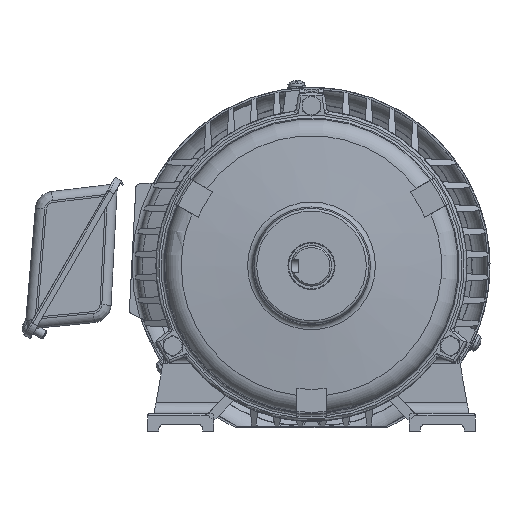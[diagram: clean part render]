
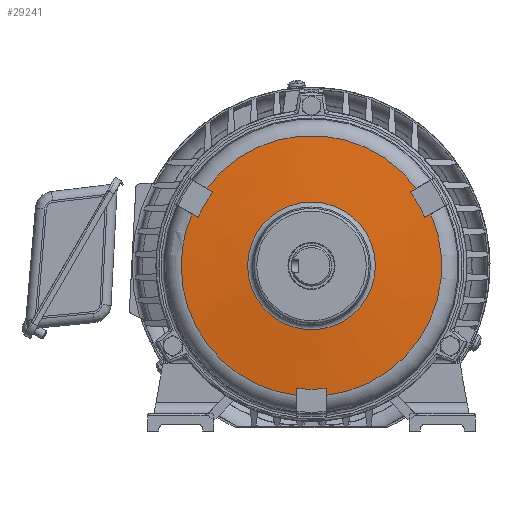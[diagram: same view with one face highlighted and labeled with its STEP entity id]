
A CAD part, front view. The second image highlights one B-rep face of the part: STEP entity #29241.
In plain terms, the highlighted conical face has half-angle 85.03 degrees and reference radius 78.5 mm.
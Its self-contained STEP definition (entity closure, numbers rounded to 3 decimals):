
#473=CONICAL_SURFACE('',#31248,78.5,1.484);
#1080=CIRCLE('',#31249,34.709);
#1081=CIRCLE('',#31250,70.777);
#1082=CIRCLE('',#31251,67.);
#1083=CIRCLE('',#31252,70.777);
#1084=CIRCLE('',#31253,67.);
#1085=CIRCLE('',#31254,70.777);
#1086=CIRCLE('',#31255,67.);
#2966=B_SPLINE_CURVE_WITH_KNOTS('',3,(#47145,#47146,#47147,#47148),
 .UNSPECIFIED.,.F.,.F.,(4,4),(0.,1.),.PIECEWISE_BEZIER_KNOTS.);
#2967=B_SPLINE_CURVE_WITH_KNOTS('',3,(#47153,#47154,#47155,#47156),
 .UNSPECIFIED.,.F.,.F.,(4,4),(0.,1.),.PIECEWISE_BEZIER_KNOTS.);
#2968=B_SPLINE_CURVE_WITH_KNOTS('',3,(#47160,#47161,#47162,#47163),
 .UNSPECIFIED.,.F.,.F.,(4,4),(0.,1.),.PIECEWISE_BEZIER_KNOTS.);
#2969=B_SPLINE_CURVE_WITH_KNOTS('',3,(#47167,#47168,#47169,#47170),
 .UNSPECIFIED.,.F.,.F.,(4,4),(0.,1.),.PIECEWISE_BEZIER_KNOTS.);
#2970=B_SPLINE_CURVE_WITH_KNOTS('',3,(#47174,#47175,#47176,#47177),
 .UNSPECIFIED.,.F.,.F.,(4,4),(0.,1.),.PIECEWISE_BEZIER_KNOTS.);
#2971=B_SPLINE_CURVE_WITH_KNOTS('',3,(#47181,#47182,#47183,#47184),
 .UNSPECIFIED.,.F.,.F.,(4,4),(0.,1.),.PIECEWISE_BEZIER_KNOTS.);
#5662=ORIENTED_EDGE('',*,*,#12124,.T.);
#5663=ORIENTED_EDGE('',*,*,#12125,.F.);
#5664=ORIENTED_EDGE('',*,*,#12126,.T.);
#5665=ORIENTED_EDGE('',*,*,#12127,.F.);
#5666=ORIENTED_EDGE('',*,*,#12128,.F.);
#5667=ORIENTED_EDGE('',*,*,#12129,.F.);
#5668=ORIENTED_EDGE('',*,*,#12130,.T.);
#5669=ORIENTED_EDGE('',*,*,#12131,.F.);
#5670=ORIENTED_EDGE('',*,*,#12132,.F.);
#5671=ORIENTED_EDGE('',*,*,#12133,.F.);
#5672=ORIENTED_EDGE('',*,*,#12134,.T.);
#5673=ORIENTED_EDGE('',*,*,#12135,.F.);
#5674=ORIENTED_EDGE('',*,*,#12136,.F.);
#12124=EDGE_CURVE('',#15556,#15556,#1080,.T.);
#12125=EDGE_CURVE('',#15557,#15558,#2966,.T.);
#12126=EDGE_CURVE('',#15557,#15559,#1081,.T.);
#12127=EDGE_CURVE('',#15560,#15559,#2967,.T.);
#12128=EDGE_CURVE('',#15561,#15560,#1082,.T.);
#12129=EDGE_CURVE('',#15562,#15561,#2968,.T.);
#12130=EDGE_CURVE('',#15562,#15563,#1083,.T.);
#12131=EDGE_CURVE('',#15564,#15563,#2969,.T.);
#12132=EDGE_CURVE('',#15565,#15564,#1084,.T.);
#12133=EDGE_CURVE('',#15566,#15565,#2970,.T.);
#12134=EDGE_CURVE('',#15566,#15567,#1085,.T.);
#12135=EDGE_CURVE('',#15568,#15567,#2971,.T.);
#12136=EDGE_CURVE('',#15558,#15568,#1086,.T.);
#15556=VERTEX_POINT('',#47144);
#15557=VERTEX_POINT('',#47149);
#15558=VERTEX_POINT('',#47150);
#15559=VERTEX_POINT('',#47152);
#15560=VERTEX_POINT('',#47157);
#15561=VERTEX_POINT('',#47159);
#15562=VERTEX_POINT('',#47164);
#15563=VERTEX_POINT('',#47166);
#15564=VERTEX_POINT('',#47171);
#15565=VERTEX_POINT('',#47173);
#15566=VERTEX_POINT('',#47178);
#15567=VERTEX_POINT('',#47180);
#15568=VERTEX_POINT('',#47185);
#20820=EDGE_LOOP('',(#5662));
#20821=EDGE_LOOP('',(#5663,#5664,#5665,#5666,#5667,#5668,#5669,#5670,#5671,
#5672,#5673,#5674));
#22682=FACE_BOUND('',#20820,.T.);
#22683=FACE_BOUND('',#20821,.T.);
#29241=ADVANCED_FACE('',(#22682,#22683),#473,.T.);
#31248=AXIS2_PLACEMENT_3D('',#47142,#35573,#35574);
#31249=AXIS2_PLACEMENT_3D('',#47143,#35575,#35576);
#31250=AXIS2_PLACEMENT_3D('',#47151,#35577,#35578);
#31251=AXIS2_PLACEMENT_3D('',#47158,#35579,#35580);
#31252=AXIS2_PLACEMENT_3D('',#47165,#35581,#35582);
#31253=AXIS2_PLACEMENT_3D('',#47172,#35583,#35584);
#31254=AXIS2_PLACEMENT_3D('',#47179,#35585,#35586);
#31255=AXIS2_PLACEMENT_3D('',#47186,#35587,#35588);
#35573=DIRECTION('',(0.,1.,0.));
#35574=DIRECTION('',(-1.,0.,0.));
#35575=DIRECTION('',(0.,1.,0.));
#35576=DIRECTION('',(-1.,0.,0.));
#35577=DIRECTION('',(0.,-1.,0.));
#35578=DIRECTION('',(1.,0.,0.));
#35579=DIRECTION('',(0.,1.,0.));
#35580=DIRECTION('',(-1.,0.,0.));
#35581=DIRECTION('',(0.,-1.,0.));
#35582=DIRECTION('',(1.,0.,0.));
#35583=DIRECTION('',(0.,1.,0.));
#35584=DIRECTION('',(-1.,0.,0.));
#35585=DIRECTION('',(0.,-1.,0.));
#35586=DIRECTION('',(1.,0.,0.));
#35587=DIRECTION('',(0.,1.,0.));
#35588=DIRECTION('',(-1.,0.,0.));
#47142=CARTESIAN_POINT('',(0.,11.,0.));
#47143=CARTESIAN_POINT('',(0.,7.192,0.));
#47144=CARTESIAN_POINT('',(-34.709,7.192,0.));
#47145=CARTESIAN_POINT('',(8.,10.328,-70.323));
#47146=CARTESIAN_POINT('',(8.,10.219,-69.056));
#47147=CARTESIAN_POINT('',(8.,10.109,-67.788));
#47148=CARTESIAN_POINT('',(8.,10.,-66.521));
#47149=CARTESIAN_POINT('',(8.,10.328,-70.323));
#47150=CARTESIAN_POINT('',(8.,10.,-66.521));
#47151=CARTESIAN_POINT('',(0.,10.328,0.));
#47152=CARTESIAN_POINT('',(64.902,10.328,28.233));
#47153=CARTESIAN_POINT('',(61.609,10.,26.332));
#47154=CARTESIAN_POINT('',(62.706,10.109,26.966));
#47155=CARTESIAN_POINT('',(63.804,10.219,27.6));
#47156=CARTESIAN_POINT('',(64.902,10.328,28.233));
#47157=CARTESIAN_POINT('',(61.609,10.,26.332));
#47158=CARTESIAN_POINT('',(0.,10.,0.));
#47159=CARTESIAN_POINT('',(53.609,10.,40.189));
#47160=CARTESIAN_POINT('',(56.902,10.328,42.09));
#47161=CARTESIAN_POINT('',(55.804,10.219,41.456));
#47162=CARTESIAN_POINT('',(54.706,10.109,40.822));
#47163=CARTESIAN_POINT('',(53.609,10.,40.189));
#47164=CARTESIAN_POINT('',(56.902,10.328,42.09));
#47165=CARTESIAN_POINT('',(0.,10.328,0.));
#47166=CARTESIAN_POINT('',(-56.902,10.328,42.09));
#47167=CARTESIAN_POINT('',(-53.609,10.,40.189));
#47168=CARTESIAN_POINT('',(-54.706,10.109,40.822));
#47169=CARTESIAN_POINT('',(-55.804,10.219,41.456));
#47170=CARTESIAN_POINT('',(-56.902,10.328,42.09));
#47171=CARTESIAN_POINT('',(-53.609,10.,40.189));
#47172=CARTESIAN_POINT('',(0.,10.,0.));
#47173=CARTESIAN_POINT('',(-61.609,10.,26.332));
#47174=CARTESIAN_POINT('',(-64.902,10.328,28.233));
#47175=CARTESIAN_POINT('',(-63.804,10.219,27.6));
#47176=CARTESIAN_POINT('',(-62.706,10.109,26.966));
#47177=CARTESIAN_POINT('',(-61.609,10.,26.332));
#47178=CARTESIAN_POINT('',(-64.902,10.328,28.233));
#47179=CARTESIAN_POINT('',(0.,10.328,0.));
#47180=CARTESIAN_POINT('',(-8.,10.328,-70.323));
#47181=CARTESIAN_POINT('',(-8.,10.,-66.521));
#47182=CARTESIAN_POINT('',(-8.,10.109,-67.788));
#47183=CARTESIAN_POINT('',(-8.,10.219,-69.056));
#47184=CARTESIAN_POINT('',(-8.,10.328,-70.323));
#47185=CARTESIAN_POINT('',(-8.,10.,-66.521));
#47186=CARTESIAN_POINT('',(0.,10.,0.));
